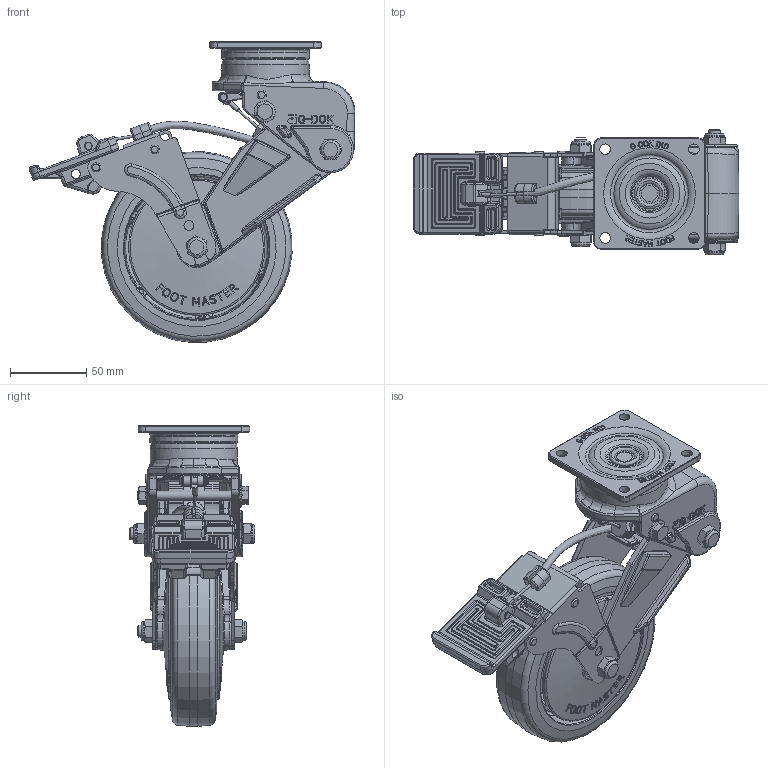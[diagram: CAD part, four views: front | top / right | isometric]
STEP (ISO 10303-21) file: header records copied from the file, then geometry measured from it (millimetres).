
FILE_DESCRIPTION(/* description */ (''),/* implementation_level */ '2;1');
FILE_NAME(/* name */ 'Z:\1.기술연구소\1.도면\제품도면\1.양산품\34.GDSB-SERIES\2.GDSB-125\1.진행도면\3.3D_홈페이지용 내부 간략화\내부 간략화\홈페이지 3D 도면\GDSB-125-BSF-LUD.stp',/* time_stamp */ '2022-08-20T10:31:57+09:00',/* author */ ('admin'),/* organization */ (''),/* preprocessor_version */ 'ST-DEVELOPER v18.1',/* originating_system */ 'Autodesk Inventor 2021',/* authorisation */ '');
FILE_SCHEMA (('AUTOMOTIVE_DESIGN { 1 0 10303 214 3 1 1 }','FEATURE_BASED_PROCESS_PLANNING'));
Products named in the file (1): GDSB-125-BSF-LUD
Bounding box: 213.2 x 82 x 196.81 mm (x, y, z)
Volume: 545969.8 mm3; surface area: 198176.7 mm2
Topology: 1 solids, 6 shells, 4428 faces, 11058 edges, 6667 vertices
Faces by surface type: plane 1503, bspline 1293, cylinder 1067, torus 274, cone 215, sphere 76
Full cylindrical faces by diameter (mm): 1.6 x5, 1.8 x1, 2 x2, 2.5 x1, 2.9 x4, 3 x3, 3.1 x6, 3.2 x2, 4 x5, 4.2 x7, 4.4 x2, 5 x4, 5.1 x1, 6 x9, 6.2 x2, 6.5 x2, 7 x4, 7.4 x1, 7.95 x5, 8 x3, 8.2 x2, 9.95 x1, 10.2 x4, 10.7 x2, 11.6 x2, 12.5 x4, 14 x2, 20 x2, 55.708 x2, 57 x1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
Entity records: 191521 total; most frequent: CARTESIAN_POINT 87452, ORIENTED_EDGE 21930, DIRECTION 19291, EDGE_CURVE 10965, AXIS2_PLACEMENT_3D 7334, VERTEX_POINT 6667, EDGE_LOOP 4663, LINE 4623
